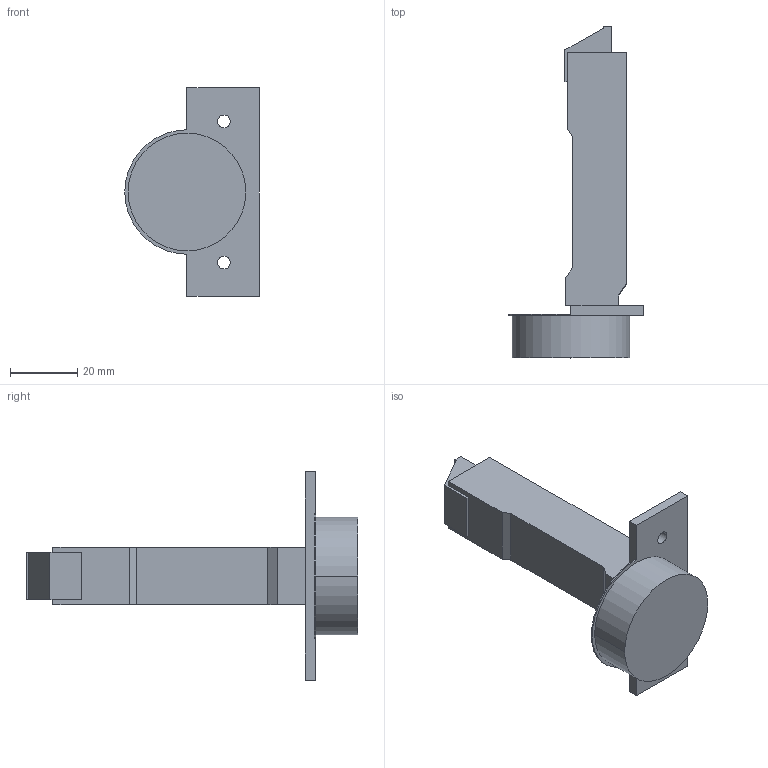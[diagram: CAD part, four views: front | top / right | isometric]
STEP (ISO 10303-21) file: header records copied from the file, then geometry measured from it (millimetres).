
FILE_DESCRIPTION (( 'STEP AP214' ), '1' );
FILE_NAME ('Scharnier TS Click-on 110° G_BB, K03.step', '2010-12-06T09:53:47', ( 'grass' ), ( '' ), 'SwSTEP 2.0', 'SolidWorks 2010', '' );
FILE_SCHEMA (( 'AUTOMOTIVE_DESIGN' ));
Length unit declared in the file: millimetre
Products named in the file (1): Scharnier TS Click-on 110° G_BB, K03
Bounding box: 40 x 98.7 x 62 mm (x, y, z)
Volume: 38342.5 mm3; surface area: 11224.6 mm2
Topology: 1 solids, 1 shells, 46 faces, 118 edges, 78 vertices
Faces by surface type: plane 33, cylinder 13
Entity records: 1434 total; most frequent: CARTESIAN_POINT 243, DIRECTION 238, ORIENTED_EDGE 236, EDGE_CURVE 118, LINE 92, VECTOR 92, VERTEX_POINT 78, AXIS2_PLACEMENT_3D 73
